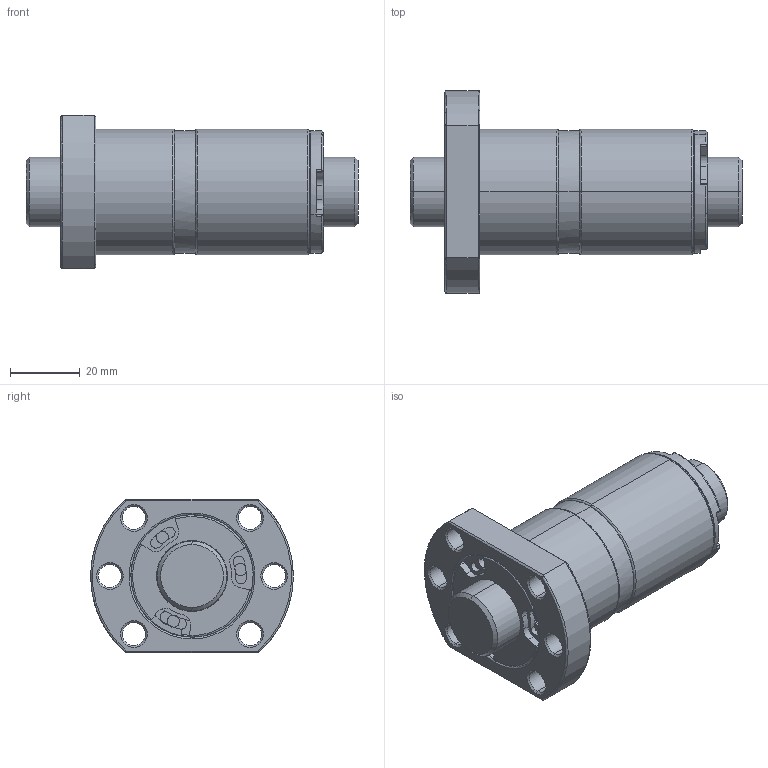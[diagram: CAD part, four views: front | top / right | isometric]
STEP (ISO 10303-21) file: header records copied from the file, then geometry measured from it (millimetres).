
FILE_DESCRIPTION (( 'STEP AP203' ), '1' );
FILE_NAME ('DFSR02005C1D-C.STEP', '2020-06-17T02:17:38', ( '' ), ( '' ), 'SwSTEP 2.0', 'SolidWorks 2013', '' );
FILE_SCHEMA (( 'CONFIG_CONTROL_DESIGN' ));
Length unit declared in the file: millimetre
Products named in the file (1): DFSR02005C1D-C
Bounding box: 95 x 58 x 44 mm (x, y, z)
Volume: 86677.6 mm3; surface area: 27003.3 mm2
Topology: 2 solids, 2 shells, 255 faces, 655 edges, 409 vertices
Faces by surface type: cylinder 129, plane 71, cone 33, bspline 22
Entity records: 10823 total; most frequent: CARTESIAN_POINT 4416, DIRECTION 1422, ORIENTED_EDGE 1310, EDGE_CURVE 655, AXIS2_PLACEMENT_3D 603, VERTEX_POINT 409, CIRCLE 369, EDGE_LOOP 290
